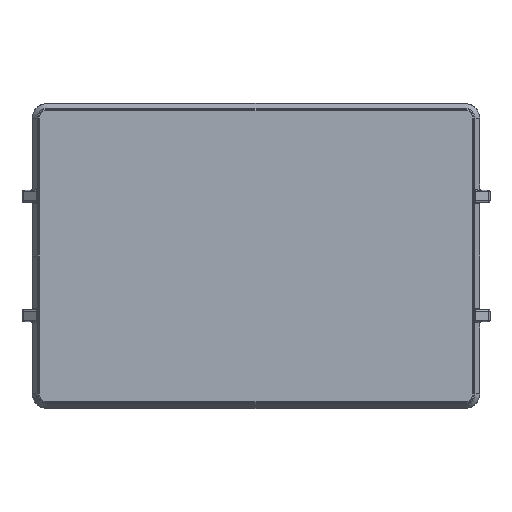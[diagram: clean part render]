
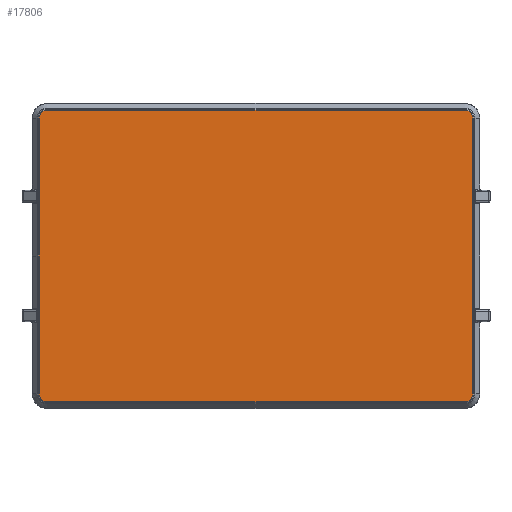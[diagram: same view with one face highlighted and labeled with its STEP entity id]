
A CAD part, front view. The second image highlights one B-rep face of the part: STEP entity #17806.
In plain terms, the highlighted planar face has unit normal (0, -1, 0).
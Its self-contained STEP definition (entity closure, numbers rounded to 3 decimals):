
#70 = DIRECTION ( 'NONE',  ( 1., 0., 0. ) ) ;
#391 = CARTESIAN_POINT ( 'NONE',  ( -88., -9., -58. ) ) ;
#446 = LINE ( 'NONE', #19771, #18450 ) ;
#779 = EDGE_CURVE ( 'NONE', #7570, #10882, #13871, .T. ) ;
#788 = DIRECTION ( 'NONE',  ( 0., 0., 1. ) ) ;
#852 = CARTESIAN_POINT ( 'NONE',  ( -88., -9., 58. ) ) ;
#1236 = LINE ( 'NONE', #20361, #3503 ) ;
#1520 = EDGE_CURVE ( 'NONE', #17068, #1743, #1236, .T. ) ;
#1743 = VERTEX_POINT ( 'NONE', #4158 ) ;
#1781 = ORIENTED_EDGE ( 'NONE', *, *, #22671, .T. ) ;
#2306 = VECTOR ( 'NONE', #14724, 1000. ) ;
#2912 = CIRCLE ( 'NONE', #5833, 3.334 ) ;
#2960 = CARTESIAN_POINT ( 'NONE',  ( -91.334, -9., 0. ) ) ;
#3061 = EDGE_CURVE ( 'NONE', #10707, #9454, #7573, .T. ) ;
#3503 = VECTOR ( 'NONE', #4558, 1000. ) ;
#4158 = CARTESIAN_POINT ( 'NONE',  ( -91.334, -9., -58. ) ) ;
#4558 = DIRECTION ( 'NONE',  ( 0., 0., -1. ) ) ;
#4713 = DIRECTION ( 'NONE',  ( 0., 0., 1. ) ) ;
#5109 = CARTESIAN_POINT ( 'NONE',  ( -88., -9., -61.334 ) ) ;
#5534 = DIRECTION ( 'NONE',  ( 0., 0., -1. ) ) ;
#5641 = CARTESIAN_POINT ( 'NONE',  ( -91.334, -9., 58. ) ) ;
#5650 = DIRECTION ( 'NONE',  ( -1., 0., 0. ) ) ;
#5716 = EDGE_CURVE ( 'NONE', #19213, #10707, #9421, .T. ) ;
#5833 = AXIS2_PLACEMENT_3D ( 'NONE', #14690, #22039, #21716 ) ;
#5978 = ORIENTED_EDGE ( 'NONE', *, *, #779, .T. ) ;
#6448 = ORIENTED_EDGE ( 'NONE', *, *, #5716, .T. ) ;
#6800 = CARTESIAN_POINT ( 'NONE',  ( -91.334, -9., 58. ) ) ;
#7187 = ORIENTED_EDGE ( 'NONE', *, *, #3061, .T. ) ;
#7396 = DIRECTION ( 'NONE',  ( 0., -1., 0. ) ) ;
#7570 = VERTEX_POINT ( 'NONE', #18447 ) ;
#7573 = CIRCLE ( 'NONE', #20454, 3.334 ) ;
#7876 = EDGE_LOOP ( 'NONE', ( #10958, #16362, #5978, #14412, #13271, #1781, #6448, #7187, #9737 ) ) ;
#7977 = AXIS2_PLACEMENT_3D ( 'NONE', #391, #7396, #5650 ) ;
#8114 = CARTESIAN_POINT ( 'NONE',  ( -88., -9., 61.334 ) ) ;
#8708 = EDGE_CURVE ( 'NONE', #1743, #7570, #14982, .T. ) ;
#9421 = LINE ( 'NONE', #16224, #2306 ) ;
#9454 = VERTEX_POINT ( 'NONE', #5641 ) ;
#9737 = ORIENTED_EDGE ( 'NONE', *, *, #11204, .T. ) ;
#9886 = DIRECTION ( 'NONE',  ( 0., 0., -1. ) ) ;
#10707 = VERTEX_POINT ( 'NONE', #8114 ) ;
#10882 = VERTEX_POINT ( 'NONE', #14788 ) ;
#10958 = ORIENTED_EDGE ( 'NONE', *, *, #1520, .T. ) ;
#11204 = EDGE_CURVE ( 'NONE', #9454, #17068, #22596, .T. ) ;
#11313 = DIRECTION ( 'NONE',  ( 0., -1., 0. ) ) ;
#11729 = DIRECTION ( 'NONE',  ( 0., -1., 0. ) ) ;
#11771 = CIRCLE ( 'NONE', #13605, 3.334 ) ;
#12032 = AXIS2_PLACEMENT_3D ( 'NONE', #2960, #13554, #788 ) ;
#12862 = VECTOR ( 'NONE', #5534, 1000. ) ;
#13271 = ORIENTED_EDGE ( 'NONE', *, *, #20407, .T. ) ;
#13554 = DIRECTION ( 'NONE',  ( 0., 1., 0. ) ) ;
#13603 = CARTESIAN_POINT ( 'NONE',  ( 88., -9., 61.334 ) ) ;
#13605 = AXIS2_PLACEMENT_3D ( 'NONE', #18409, #11729, #9886 ) ;
#13871 = LINE ( 'NONE', #5109, #13935 ) ;
#13935 = VECTOR ( 'NONE', #70, 1000. ) ;
#14412 = ORIENTED_EDGE ( 'NONE', *, *, #18998, .T. ) ;
#14690 = CARTESIAN_POINT ( 'NONE',  ( 88., -9., 58. ) ) ;
#14724 = DIRECTION ( 'NONE',  ( -1., 0., 0. ) ) ;
#14788 = CARTESIAN_POINT ( 'NONE',  ( 88., -9., -61.334 ) ) ;
#14982 = CIRCLE ( 'NONE', #7977, 3.334 ) ;
#16224 = CARTESIAN_POINT ( 'NONE',  ( 88., -9., 61.334 ) ) ;
#16362 = ORIENTED_EDGE ( 'NONE', *, *, #8708, .T. ) ;
#16549 = PLANE ( 'NONE',  #12032 ) ;
#17068 = VERTEX_POINT ( 'NONE', #22610 ) ;
#17806 = ADVANCED_FACE ( 'NONE', ( #22301 ), #16549, .F. ) ;
#18053 = DIRECTION ( 'NONE',  ( 0., 0., 1. ) ) ;
#18409 = CARTESIAN_POINT ( 'NONE',  ( 88., -9., -58. ) ) ;
#18447 = CARTESIAN_POINT ( 'NONE',  ( -88., -9., -61.334 ) ) ;
#18450 = VECTOR ( 'NONE', #18053, 1000. ) ;
#18552 = CARTESIAN_POINT ( 'NONE',  ( 91.334, -9., 58. ) ) ;
#18998 = EDGE_CURVE ( 'NONE', #10882, #21523, #11771, .T. ) ;
#19213 = VERTEX_POINT ( 'NONE', #13603 ) ;
#19771 = CARTESIAN_POINT ( 'NONE',  ( 91.334, -9., -58. ) ) ;
#20361 = CARTESIAN_POINT ( 'NONE',  ( -91.334, -9., 0. ) ) ;
#20407 = EDGE_CURVE ( 'NONE', #21523, #22107, #446, .T. ) ;
#20454 = AXIS2_PLACEMENT_3D ( 'NONE', #852, #11313, #4713 ) ;
#21523 = VERTEX_POINT ( 'NONE', #22630 ) ;
#21716 = DIRECTION ( 'NONE',  ( 1., 0., 0. ) ) ;
#22039 = DIRECTION ( 'NONE',  ( 0., -1., 0. ) ) ;
#22107 = VERTEX_POINT ( 'NONE', #18552 ) ;
#22301 = FACE_OUTER_BOUND ( 'NONE', #7876, .T. ) ;
#22596 = LINE ( 'NONE', #6800, #12862 ) ;
#22610 = CARTESIAN_POINT ( 'NONE',  ( -91.334, -9., 0. ) ) ;
#22630 = CARTESIAN_POINT ( 'NONE',  ( 91.334, -9., -58. ) ) ;
#22671 = EDGE_CURVE ( 'NONE', #22107, #19213, #2912, .T. ) ;
